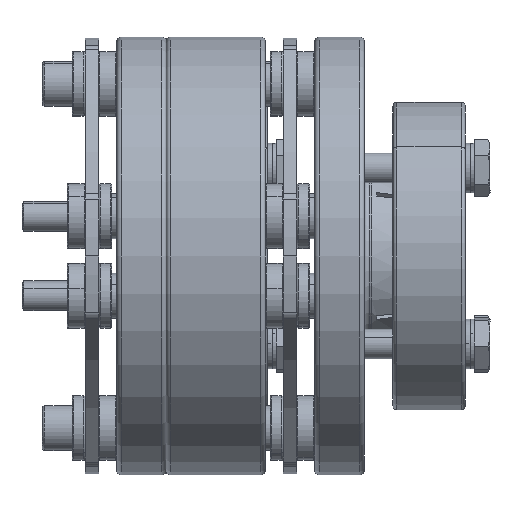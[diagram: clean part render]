
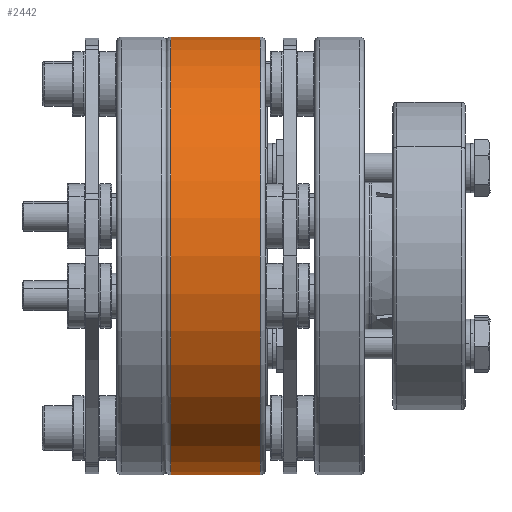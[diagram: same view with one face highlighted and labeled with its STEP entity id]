
A CAD part, front view. The second image highlights one B-rep face of the part: STEP entity #2442.
In plain terms, the highlighted cylindrical face has radius 44 mm (diameter 88 mm), a partial arc.
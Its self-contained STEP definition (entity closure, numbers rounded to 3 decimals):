
#2109 = VERTEX_POINT ( 'NONE', #7387 ) ;
#2112 = VERTEX_POINT ( 'NONE', #7381 ) ;
#2147 = VERTEX_POINT ( 'NONE', #7440 ) ;
#2148 = VERTEX_POINT ( 'NONE', #7439 ) ;
#2220 = EDGE_CURVE ( 'NONE', #2148, #2112, #7565, .T. ) ;
#2223 = EDGE_CURVE ( 'NONE', #2147, #2109, #7560, .T. ) ;
#2442 = ADVANCED_FACE ( 'NONE', ( #8005 ), #8004, .T. ) ;
#2443 = EDGE_LOOP ( 'NONE', ( #2444, #2445, #2447, #2498 ) ) ;
#2444 = ORIENTED_EDGE ( 'NONE', *, *, #2220, .F. ) ;
#2445 = ORIENTED_EDGE ( 'NONE', *, *, #2446, .T. ) ;
#2446 = EDGE_CURVE ( 'NONE', #2148, #2147, #8003, .T. ) ;
#2447 = ORIENTED_EDGE ( 'NONE', *, *, #2223, .T. ) ;
#2498 = ORIENTED_EDGE ( 'NONE', *, *, #2499, .T. ) ;
#2499 = EDGE_CURVE ( 'NONE', #2109, #2112, #8106, .T. ) ;
#7309 = CARTESIAN_POINT ( 'NONE',  ( 10., 0., 44. ) ) ;
#7381 = CARTESIAN_POINT ( 'NONE',  ( -9., 0., -44. ) ) ;
#7387 = CARTESIAN_POINT ( 'NONE',  ( -9., 0., 44. ) ) ;
#7439 = CARTESIAN_POINT ( 'NONE',  ( 9., 0., -44. ) ) ;
#7440 = CARTESIAN_POINT ( 'NONE',  ( 9., 0., 44. ) ) ;
#7560 = LINE ( 'NONE', #7309, #7628 ) ;
#7562 = DIRECTION ( 'NONE',  ( -1., 0., 0. ) ) ;
#7563 = VECTOR ( 'NONE', #7562, 1000. ) ;
#7564 = CARTESIAN_POINT ( 'NONE',  ( 10., 0., -44. ) ) ;
#7565 = LINE ( 'NONE', #7564, #7563 ) ;
#7627 = DIRECTION ( 'NONE',  ( -1., 0., 0. ) ) ;
#7628 = VECTOR ( 'NONE', #7627, 1000. ) ;
#7999 = DIRECTION ( 'NONE',  ( 0., 0., 1. ) ) ;
#8000 = DIRECTION ( 'NONE',  ( -1., 0., 0. ) ) ;
#8001 = CARTESIAN_POINT ( 'NONE',  ( 10., 0., 0. ) ) ;
#8002 = AXIS2_PLACEMENT_3D ( 'NONE', #8001, #8000, #7999 ) ;
#8003 = CIRCLE ( 'NONE', #8064, 44. ) ;
#8004 = CYLINDRICAL_SURFACE ( 'NONE', #8002, 44. ) ;
#8005 = FACE_OUTER_BOUND ( 'NONE', #2443, .T. ) ;
#8061 = DIRECTION ( 'NONE',  ( 0., 0., -1. ) ) ;
#8062 = DIRECTION ( 'NONE',  ( -1., 0., 0. ) ) ;
#8063 = CARTESIAN_POINT ( 'NONE',  ( 9., 0., 0. ) ) ;
#8064 = AXIS2_PLACEMENT_3D ( 'NONE', #8063, #8062, #8061 ) ;
#8102 = DIRECTION ( 'NONE',  ( 0., 0., -1. ) ) ;
#8103 = DIRECTION ( 'NONE',  ( 1., 0., 0. ) ) ;
#8104 = CARTESIAN_POINT ( 'NONE',  ( -9., 0., 0. ) ) ;
#8105 = AXIS2_PLACEMENT_3D ( 'NONE', #8104, #8103, #8102 ) ;
#8106 = CIRCLE ( 'NONE', #8105, 44. ) ;
